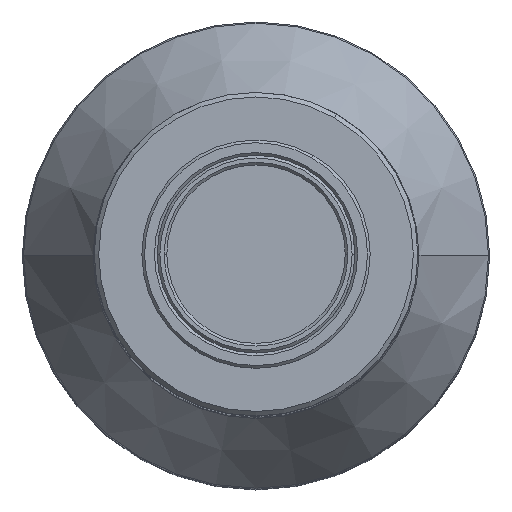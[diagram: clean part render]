
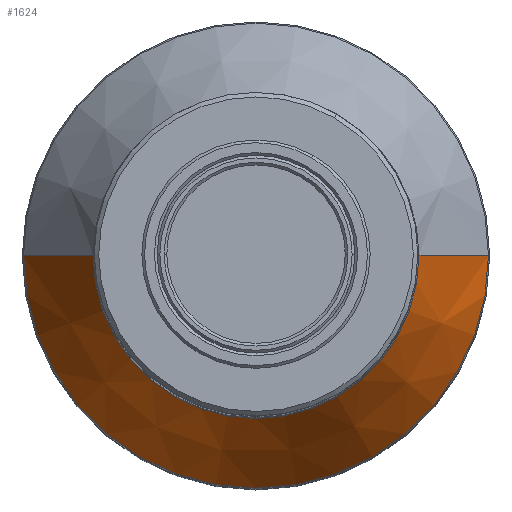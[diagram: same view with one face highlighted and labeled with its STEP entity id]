
A CAD part, top view. The second image highlights one B-rep face of the part: STEP entity #1624.
In plain terms, the highlighted conical face has half-angle 30 degrees and reference radius 26 mm.
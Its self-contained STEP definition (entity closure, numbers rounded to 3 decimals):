
#39 = ORIENTED_EDGE ( 'NONE', *, *, #1585, .F. ) ;
#65 = VECTOR ( 'NONE', #578, 1000. ) ;
#110 = LINE ( 'NONE', #426, #65 ) ;
#235 = VECTOR ( 'NONE', #739, 1000. ) ;
#257 = CONICAL_SURFACE ( 'NONE', #1042, 26., 0.524 ) ;
#315 = EDGE_CURVE ( 'NONE', #1295, #1275, #813, .T. ) ;
#328 = VERTEX_POINT ( 'NONE', #1458 ) ;
#375 = CARTESIAN_POINT ( 'NONE',  ( -18.134, 0., 0.099 ) ) ;
#426 = CARTESIAN_POINT ( 'NONE',  ( -26., 0., -13.525 ) ) ;
#453 = CARTESIAN_POINT ( 'NONE',  ( 26., 0., -13.525 ) ) ;
#482 = VERTEX_POINT ( 'NONE', #623 ) ;
#578 = DIRECTION ( 'NONE',  ( -0.5, 0., -0.866 ) ) ;
#590 = DIRECTION ( 'NONE',  ( 0., 0., -1. ) ) ;
#623 = CARTESIAN_POINT ( 'NONE',  ( -25.866, 0., -13.293 ) ) ;
#670 = CARTESIAN_POINT ( 'NONE',  ( 0., 0., 0.099 ) ) ;
#681 = ORIENTED_EDGE ( 'NONE', *, *, #315, .T. ) ;
#731 = ORIENTED_EDGE ( 'NONE', *, *, #1290, .T. ) ;
#739 = DIRECTION ( 'NONE',  ( 0.5, 0., -0.866 ) ) ;
#763 = CIRCLE ( 'NONE', #1589, 25.866 ) ;
#813 = CIRCLE ( 'NONE', #1102, 18.134 ) ;
#814 = DIRECTION ( 'NONE',  ( -1., 0., 0. ) ) ;
#921 = CARTESIAN_POINT ( 'NONE',  ( 0., 0., -13.293 ) ) ;
#992 = CARTESIAN_POINT ( 'NONE',  ( 0., 0., -13.525 ) ) ;
#1042 = AXIS2_PLACEMENT_3D ( 'NONE', #992, #590, #1132 ) ;
#1102 = AXIS2_PLACEMENT_3D ( 'NONE', #670, #1594, #814 ) ;
#1117 = ORIENTED_EDGE ( 'NONE', *, *, #1529, .T. ) ;
#1132 = DIRECTION ( 'NONE',  ( -1., 0., 0. ) ) ;
#1166 = CARTESIAN_POINT ( 'NONE',  ( 18.134, 0., 0.099 ) ) ;
#1239 = FACE_OUTER_BOUND ( 'NONE', #1313, .T. ) ;
#1275 = VERTEX_POINT ( 'NONE', #375 ) ;
#1286 = LINE ( 'NONE', #453, #235 ) ;
#1290 = EDGE_CURVE ( 'NONE', #482, #328, #763, .T. ) ;
#1295 = VERTEX_POINT ( 'NONE', #1166 ) ;
#1312 = DIRECTION ( 'NONE',  ( 0., 0., 1. ) ) ;
#1313 = EDGE_LOOP ( 'NONE', ( #39, #681, #1117, #731 ) ) ;
#1441 = DIRECTION ( 'NONE',  ( 1., 0., 0. ) ) ;
#1458 = CARTESIAN_POINT ( 'NONE',  ( 25.866, 0., -13.293 ) ) ;
#1529 = EDGE_CURVE ( 'NONE', #1275, #482, #110, .T. ) ;
#1585 = EDGE_CURVE ( 'NONE', #1295, #328, #1286, .T. ) ;
#1589 = AXIS2_PLACEMENT_3D ( 'NONE', #921, #1312, #1441 ) ;
#1594 = DIRECTION ( 'NONE',  ( 0., 0., -1. ) ) ;
#1624 = ADVANCED_FACE ( 'NONE', ( #1239 ), #257, .T. ) ;
